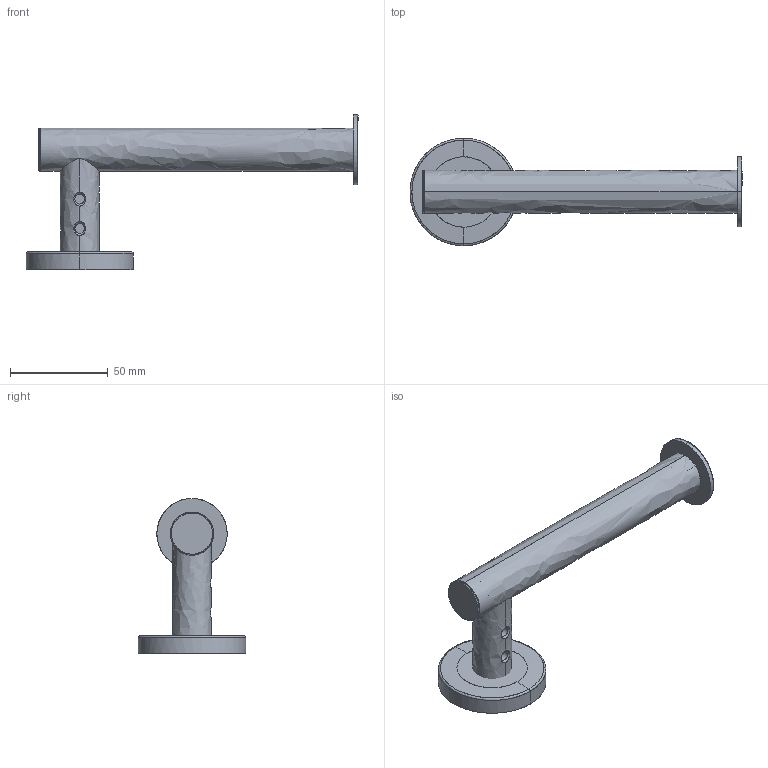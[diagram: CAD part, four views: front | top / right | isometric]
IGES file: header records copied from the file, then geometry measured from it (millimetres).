
Start section: SolidWorks IGES file using NURBS representation for surfaces
Global section: file name: G:\4- VARIOS\9 - Web Files\ARCHITECT S+\235##58-W.IGS; native system: SolidWorks 2016; preprocessor: SolidWorks 2016; author: vegrut01; date: 201027.101723; units: millimetre
Bounding box: 170 x 55 x 79.38 mm (x, y, z)
Surface area: 39951.7 mm2 (no closed solid volume)
Topology: 0 solids, 0 shells, 846 faces, 9270 edges, 11676 vertices
Faces by surface type: bspline 846
